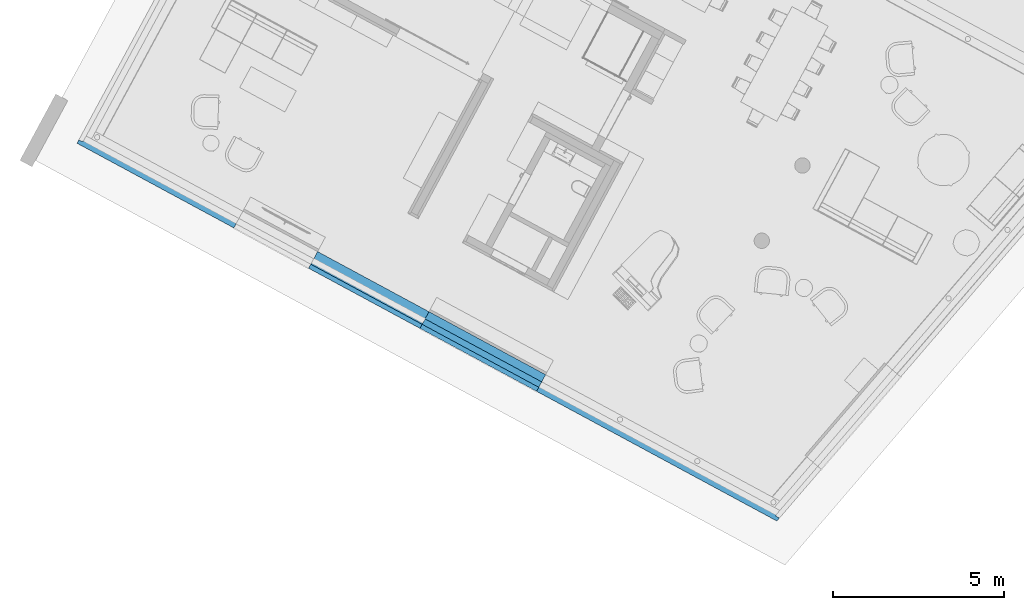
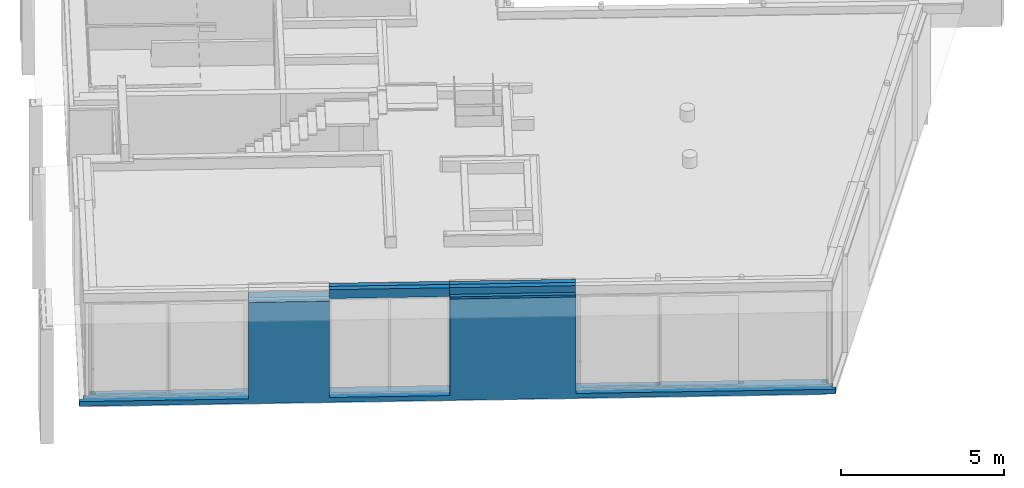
# One storey, part 3 of 52: 3 walls, 3 openings.
"""IFC2X3 building model written with IfcOpenShell, lengths in metres."""

from ifc_helpers import new_model, entity, si_unit, converted_unit, derived_unit, money_unit, direction, frame, origin_with_axes, origin_2d_with_axis, place, context, subcontext, project, spatial, rectangle, extrude, faceted_brep, material, material_list, type_object, element, save


model = new_model("IFC2X3")

# Units and contexts
model_context = context("Model", 3, precision=1e-05, world=origin_with_axes(), true_north=direction((0.0, 1.0)))
body_context = subcontext(model_context, "Body", "Model", "MODEL_VIEW")
ifc_project = project(units=[si_unit("LENGTHUNIT", "METRE"), si_unit("AREAUNIT", "SQUARE_METRE"), si_unit("VOLUMEUNIT", "CUBIC_METRE"), converted_unit("PLANEANGLEUNIT", "DEGREE", entity("IfcPlaneAngleMeasure", 0.0174532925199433), si_unit("PLANEANGLEUNIT", "RADIAN"), dimensions=[0, 0, 0, 0, 0, 0, 0]), money_unit("EUR"), converted_unit("TIMEUNIT", "Year", entity("IfcTimeMeasure", 31556926.0), si_unit("TIMEUNIT", "SECOND"), dimensions=[0, 0, 1, 0, 0, 0, 0]), si_unit("MASSUNIT", "GRAM", prefix="KILO"), si_unit("THERMODYNAMICTEMPERATUREUNIT", "DEGREE_CELSIUS"), si_unit("LUMINOUSINTENSITYUNIT", "LUMEN"), si_unit("ENERGYUNIT", "JOULE", prefix="MEGA"), derived_unit("THERMALCONDUCTANCEUNIT", [(si_unit("POWERUNIT", "WATT"), 1), (si_unit("LENGTHUNIT", "METRE"), -1), (si_unit("THERMODYNAMICTEMPERATUREUNIT", "KELVIN"), -1)]), derived_unit("SPECIFICHEATCAPACITYUNIT", [(si_unit("ENERGYUNIT", "JOULE"), 1), (si_unit("MASSUNIT", "GRAM", prefix="KILO"), -1), (si_unit("THERMODYNAMICTEMPERATUREUNIT", "KELVIN"), -1)]), derived_unit("MASSDENSITYUNIT", [(si_unit("MASSUNIT", "GRAM", prefix="KILO"), 1), (si_unit("VOLUMEUNIT", "CUBIC_METRE"), -1)])], contexts=[model_context])

# Site, building, storey
site_placement = place(None, frame((-3.949935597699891, 1.740105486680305, 0.0), z_axis=(0.0, 0.0, 1.0), x_axis=(0.8799804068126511, -0.475009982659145, 0.0)))
site = spatial("IfcSite", under=ifc_project, at=site_placement, Name="Gelände", CompositionType="ELEMENT")
building_placement = place(site_placement, origin_with_axes())
building = spatial("IfcBuilding", under=site, at=building_placement, Name="Gebäude", CompositionType="ELEMENT")
storey_placement = place(building_placement, origin_with_axes())
storey = spatial("IfcBuildingStorey", under=building, at=storey_placement, Name="Erdgeschoss", CompositionType="ELEMENT", Elevation=0.0)

# Wall, openings
ifc_material_1 = material(Name="_SIWH - Beton, Stahlbeton")
ifc_material_2 = material(Name="_SIWH - Dämmung, weich Mineralwolle")
ifc_material_3 = material(Name="_SIWH - Luftschicht vertikal")
ifc_material_4 = material(Name="_SIWH - MW Vormauerziegel")
ifc_material_list_1 = material_list([ifc_material_1, ifc_material_2, ifc_material_3, ifc_material_4])
wall_type_1 = type_object("IfcWallType", Name="_SIWH - WA | Stb. 24+WD 18+LS 2+Verblender 11,5 | 55,5cm 555", PredefinedType="NOTDEFINED")
wall_1_placement = place(storey_placement, frame((4.1825262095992, 0.2249963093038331, -0.18), z_axis=(0.0, 0.0, 1.0), x_axis=(0.9999999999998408, -5.644435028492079e-07, 0.0)))
wall_1 = element("IfcWall", 1, at=wall_1_placement, inside=storey, type_object=wall_type_1, material=ifc_material_list_1, Name="A-Wand040", context=body_context, shape_type="Brep", body=[
    faceted_brep([(0.2400000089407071, 0.2400000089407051, 0.1800000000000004), (4.894955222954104, 0.2400000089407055, 0.1800000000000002), (4.894955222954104, 0.2400000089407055, 3.799999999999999), (7.377462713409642, 0.2400000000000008, 3.799999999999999), (7.377462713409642, 0.2400000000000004, 0.1800000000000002), (11.07746271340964, 0.2400000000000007, 0.1800000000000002), (11.07746271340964, 0.2400000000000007, 3.799999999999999), (14.95233473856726, 0.2400000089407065, 3.799999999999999), (14.95233473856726, 0.240000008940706, 0.1800000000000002), (22.48610912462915, 0.2400000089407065, 0.1800000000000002), (22.60382003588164, 0.2400000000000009, 0.18), (22.73176667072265, 0.2400000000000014, 0.18), (22.73176667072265, 0.2400000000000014, 0.0), (0.0, 0.2399999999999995, 0.0), (0.0, 0.2399999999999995, 0.18), (0.1250000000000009, 0.2399999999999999, 0.18), (0.1813924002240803, 0.1646755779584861, 0.1800000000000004), (0.1921874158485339, 0.143489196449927, 0.1800000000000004), (0.1951158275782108, 0.1249999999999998, 0.1800000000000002), (4.894955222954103, 0.1249999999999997, 0.1800000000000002), (0.125, 0.1951972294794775, 0.18), (0.1433923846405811, 0.1922841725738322, 0.1799999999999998), (0.164578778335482, 0.1814891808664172, 0.1799999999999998), (4.894955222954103, 0.1250000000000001, 3.799999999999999), (4.894955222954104, -1.788140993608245e-08, 3.799999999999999), (7.377462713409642, 0.0, 3.799999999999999), (7.377462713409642, 0.0, 0.1800000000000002), (11.07746271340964, 0.0, 0.1800000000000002), (11.07746271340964, 0.0, 3.799999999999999), (14.95233473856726, 0.1250000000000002, 3.799999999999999), (14.95233473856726, -1.788140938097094e-08, 3.799999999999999), (14.95233473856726, 0.1249999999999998, 0.1800000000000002), (17.41379108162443, 0.125, 0.1800000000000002), (17.41672101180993, 0.1434989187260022, 0.1800000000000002), (17.42751600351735, 0.1646853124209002, 0.1800000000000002), (17.44432960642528, 0.1814989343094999, 0.1800000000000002), (17.46551598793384, 0.1922939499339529, 0.1800000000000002), (17.48900127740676, 0.196013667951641, 0.1800000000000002), (17.51248657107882, 0.1922939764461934, 0.1800000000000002), (17.53367296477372, 0.181498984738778, 0.1800000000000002), (17.55048658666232, 0.1646853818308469, 0.1800000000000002), (17.56128160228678, 0.1434990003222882, 0.1800000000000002), (17.56421156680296, 0.1249999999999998, 0.1800000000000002), (19.98045751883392, 0.1250000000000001, 0.1800000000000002), (19.98338767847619, 0.1435003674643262, 0.1800000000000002), (19.9941826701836, 0.1646867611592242, 0.1800000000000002), (20.01099627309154, 0.1815003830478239, 0.1800000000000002), (20.0321826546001, 0.1922953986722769, 0.1800000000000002), (20.05566794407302, 0.196015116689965, 0.1800000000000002), (20.07915323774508, 0.1922954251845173, 0.1800000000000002), (20.10033963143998, 0.181500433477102, 0.1800000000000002), (20.11715325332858, 0.1646868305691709, 0.1800000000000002), (20.12794826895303, 0.1435004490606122, 0.1800000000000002), (20.13087846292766, 0.1250000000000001, 0.1800000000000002), (22.50751728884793, 0.1250000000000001, 0.1800000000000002), (22.51044767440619, 0.1435017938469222, 0.1800000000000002), (22.52124266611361, 0.1646881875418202, 0.1800000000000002), (22.53805626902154, 0.1815018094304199, 0.1799999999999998), (22.55924265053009, 0.1922968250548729, 0.1799999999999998), (22.58272794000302, 0.196016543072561, 0.1799999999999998), (22.59382968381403, 0.1942582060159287, 0.18), (22.64421329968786, 0.07534489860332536, 0.18), (22.62739969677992, 0.05853127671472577, 0.1800000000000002), (22.60621331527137, 0.04773626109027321, 0.1800000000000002), (22.58272802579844, 0.04401654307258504, 0.1800000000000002), (22.55924273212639, 0.04773623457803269, 0.1800000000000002), (22.53805633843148, 0.05853122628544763, 0.1800000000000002), (22.52124271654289, 0.07534482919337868, 0.1800000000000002), (22.51044770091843, 0.0965312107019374, 0.1800000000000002), (22.50672798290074, 0.1200165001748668, 0.1800000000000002), (20.13166798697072, 0.1200151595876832, 0.1800000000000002), (20.12794829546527, 0.09652986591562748, 0.1800000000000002), (20.11715330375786, 0.07534347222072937, 0.1800000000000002), (20.10033970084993, 0.05852985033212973, 0.1800000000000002), (20.07915331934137, 0.04773483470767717, 0.1800000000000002), (20.05566802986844, 0.04401511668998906, 0.1800000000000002), (20.03218273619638, 0.04773480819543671, 0.1800000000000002), (20.01099634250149, 0.05852979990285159, 0.1800000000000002), (19.99418272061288, 0.07534340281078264, 0.1800000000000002), (19.98338770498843, 0.09652978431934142, 0.1800000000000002), (19.97966798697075, 0.1200150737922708, 0.1800000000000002), (17.56500132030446, 0.1200137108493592, 0.1800000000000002), (17.56128162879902, 0.09652841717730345, 0.1800000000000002), (17.5504866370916, 0.0753420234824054, 0.1800000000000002), (17.53367303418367, 0.05852840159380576, 0.1800000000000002), (17.51248665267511, 0.0477333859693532, 0.1800000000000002), (17.48900136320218, 0.04401366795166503, 0.1800000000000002), (17.46551606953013, 0.04773335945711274, 0.1800000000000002), (17.44432967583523, 0.05852835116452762, 0.1800000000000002), (17.42751605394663, 0.07534195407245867, 0.1800000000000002), (17.41672103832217, 0.0965283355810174, 0.1800000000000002), (17.41300132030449, 0.1200136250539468, 0.1800000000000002), (14.95233473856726, 0.0, 0.1800000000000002), (22.67934886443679, 0.0, 0.1800000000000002), (22.60621323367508, 0.1922968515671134, 0.18), (22.62739962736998, 0.1815018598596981, 0.18), (22.64421324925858, 0.1646882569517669, 0.18), (22.65500826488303, 0.1435018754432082, 0.18), (22.65872798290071, 0.1200165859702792, 0.18), (22.65500829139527, 0.09653129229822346, 0.18), (22.67934886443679, 0.0, 0.0), (0.0, 0.0, 0.0), (0.09642188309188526, 0.04772355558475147, 0.0), (0.1199071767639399, 0.04400386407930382, 0.0), (0.1433924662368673, 0.04772358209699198, 0.0), (0.1645788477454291, 0.05851859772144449, 0.0), (0.181392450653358, 0.07533221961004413, 0.0), (0.1921874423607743, 0.09651861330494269, 0.0), (0.1959071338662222, 0.120003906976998, 0.0), (0.1921874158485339, 0.143489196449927, 0.0), (0.1813924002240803, 0.1646755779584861, 0.0), (0.164578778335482, 0.1814891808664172, 0.0), (0.1433923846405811, 0.1922841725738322, 0.0), (0.1199070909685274, 0.1960038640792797, 0.0), (0.09642180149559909, 0.1922841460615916, 0.0), (0.0752354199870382, 0.1814891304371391, 0.0), (0.05842181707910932, 0.1646755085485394, 0.0), (0.04762682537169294, 0.1434891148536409, 0.0), (0.04390713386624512, 0.1200038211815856, 0.0), (0.04762685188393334, 0.09651853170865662, 0.0), (0.05842186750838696, 0.07533215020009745, 0.0), (0.07523548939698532, 0.05851854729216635, 0.0), (22.55924273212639, 0.04773623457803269, 0.0), (22.58272802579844, 0.04401654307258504, 0.0), (22.60621331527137, 0.04773626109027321, 0.0), (22.62739969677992, 0.05853127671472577, 0.0), (22.64421329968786, 0.07534489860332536, 0.0), (22.65500829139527, 0.09653129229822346, 0.0), (22.65872798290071, 0.1200165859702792, 0.0), (22.65500826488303, 0.1435018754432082, 0.0), (22.64421324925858, 0.1646882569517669, 0.0), (22.62739962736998, 0.1815018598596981, 0.0), (22.60621323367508, 0.1922968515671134, 0.0), (22.58272794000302, 0.196016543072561, 0.0), (22.55924265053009, 0.1922968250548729, 0.0), (22.53805626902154, 0.1815018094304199, 0.0), (22.52124266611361, 0.1646881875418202, 0.0), (22.51044767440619, 0.1435017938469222, 0.0), (22.50672798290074, 0.1200165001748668, 0.0), (22.51044770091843, 0.0965312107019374, 0.0), (22.52124271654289, 0.07534482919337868, 0.0), (22.53805633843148, 0.05853122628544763, 0.0), (20.03218273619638, 0.04773480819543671, 0.0), (20.05566802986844, 0.04401511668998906, 0.0), (20.07915331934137, 0.04773483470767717, 0.0), (20.10033970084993, 0.05852985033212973, 0.0), (20.11715330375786, 0.07534347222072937, 0.0), (20.12794829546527, 0.09652986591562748, 0.0), (20.13166798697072, 0.1200151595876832, 0.0), (20.12794826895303, 0.1435004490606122, 0.0), (20.11715325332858, 0.1646868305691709, 0.0), (20.10033963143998, 0.181500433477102, 0.0), (20.07915323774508, 0.1922954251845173, 0.0), (20.05566794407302, 0.196015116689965, 0.0), (20.0321826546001, 0.1922953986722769, 0.0), (20.01099627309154, 0.1815003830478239, 0.0), (19.9941826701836, 0.1646867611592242, 0.0), (19.98338767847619, 0.1435003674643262, 0.0), (19.97966798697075, 0.1200150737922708, 0.0), (19.98338770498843, 0.09652978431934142, 0.0), (19.99418272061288, 0.07534340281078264, 0.0), (20.01099634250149, 0.05852979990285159, 0.0), (0.0, 0.0, 0.1800000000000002), (4.894955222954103, 0.0, 0.1800000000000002), (0.1959071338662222, 0.120003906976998, 0.1800000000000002), (0.1921874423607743, 0.09651861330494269, 0.1800000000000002), (0.181392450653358, 0.07533221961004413, 0.1800000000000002), (0.1645788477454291, 0.05851859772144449, 0.1800000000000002), (0.1433924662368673, 0.04772358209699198, 0.1800000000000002), (0.1199071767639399, 0.04400386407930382, 0.1800000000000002), (0.09642188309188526, 0.04772355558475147, 0.1800000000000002), (0.07523548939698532, 0.05851854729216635, 0.1800000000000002), (0.05842186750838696, 0.07533215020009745, 0.18), (0.04762685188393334, 0.09651853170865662, 0.18), (0.04390713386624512, 0.1200038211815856, 0.18), (0.04762682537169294, 0.1434891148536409, 0.18), (0.05842181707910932, 0.1646755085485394, 0.18), (0.0752354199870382, 0.1814891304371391, 0.18), (0.09642180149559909, 0.1922841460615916, 0.18), (0.1199070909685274, 0.1960038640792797, 0.18), (17.41300132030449, 0.1200136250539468, 0.03000000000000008), (17.41672101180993, 0.1434989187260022, 0.03000000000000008), (17.42751600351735, 0.1646853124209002, 0.03000000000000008), (17.44432960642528, 0.1814989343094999, 0.03000000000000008), (17.46551598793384, 0.1922939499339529, 0.03000000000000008), (17.48900127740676, 0.196013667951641, 0.03000000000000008), (17.51248657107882, 0.1922939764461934, 0.03000000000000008), (17.53367296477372, 0.181498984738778, 0.03000000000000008), (17.55048658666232, 0.1646853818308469, 0.03000000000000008), (17.56128160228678, 0.1434990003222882, 0.03000000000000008), (17.56500132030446, 0.1200137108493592, 0.03000000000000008), (17.56128162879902, 0.09652841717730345, 0.03000000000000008), (17.5504866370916, 0.0753420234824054, 0.03000000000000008), (17.53367303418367, 0.05852840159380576, 0.03000000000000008), (17.51248665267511, 0.0477333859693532, 0.03000000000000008), (17.48900136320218, 0.04401366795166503, 0.03000000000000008), (17.46551606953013, 0.04773335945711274, 0.03000000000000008), (17.44432967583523, 0.05852835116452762, 0.03000000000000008), (17.42751605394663, 0.07534195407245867, 0.03000000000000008), (17.41672103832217, 0.0965283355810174, 0.03000000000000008)], [[[0, 1, 2, 3, 4, 5, 6, 7, 8, 9, 10, 11, 12, 13, 14, 15]], [[16, 17, 18, 19, 1, 0, 15, 20, 21, 22]], [[23, 2, 1, 19]], [[23, 24, 25, 3, 2]], [[26, 4, 3, 25]], [[27, 5, 4, 26]], [[27, 28, 6, 5]], [[29, 7, 6, 28, 30]], [[8, 7, 29, 31]], [[9, 8, 31, 32, 33, 34, 35, 36, 37, 38, 39, 40, 41, 42, 43, 44, 45, 46, 47, 48, 49, 50, 51, 52, 53, 54, 55, 56, 57, 58, 59, 60, 10]], [[61, 62, 63, 64, 65, 66, 67, 68, 69, 54, 53, 70, 71, 72, 73, 74, 75, 76, 77, 78, 79, 80, 43, 42, 81, 82, 83, 84, 85, 86, 87, 88, 89, 90, 91, 32, 31, 92, 93, 11, 10, 60, 94, 95, 96, 97, 98, 99]], [[11, 93, 100, 12]], [[13, 12, 100, 101], [102, 103, 104, 105, 106, 107, 108, 109, 110, 111, 112, 113, 114, 115, 116, 117, 118, 119, 120, 121], [122, 123, 124, 125, 126, 127, 128, 129, 130, 131, 132, 133, 134, 135, 136, 137, 138, 139, 140, 141], [142, 143, 144, 145, 146, 147, 148, 149, 150, 151, 152, 153, 154, 155, 156, 157, 158, 159, 160, 161]], [[162, 14, 13, 101]], [[162, 163, 19, 18, 164, 165, 166, 167, 168, 169, 170, 171, 172, 173, 174, 175, 176, 177, 178, 179, 20, 15, 14]], [[17, 16, 110, 109]], [[18, 17, 109, 108, 164]], [[20, 179, 113, 112, 21]], [[22, 21, 112, 111]], [[16, 22, 111, 110]], [[24, 23, 19, 163]], [[163, 162, 101, 100, 93, 92, 30, 28, 27, 26, 25, 24]], [[29, 30, 92, 31]], [[32, 91, 180, 181, 33]], [[34, 33, 181, 182]], [[35, 34, 182, 183]], [[36, 35, 183, 184]], [[37, 36, 184, 185]], [[38, 37, 185, 186]], [[39, 38, 186, 187]], [[40, 39, 187, 188]], [[41, 40, 188, 189]], [[42, 41, 189, 190, 81]], [[43, 80, 158, 157, 44]], [[45, 44, 157, 156]], [[46, 45, 156, 155]], [[47, 46, 155, 154]], [[48, 47, 154, 153]], [[49, 48, 153, 152]], [[50, 49, 152, 151]], [[51, 50, 151, 150]], [[52, 51, 150, 149]], [[53, 52, 149, 148, 70]], [[54, 69, 138, 137, 55]], [[56, 55, 137, 136]], [[56, 136, 135, 57]], [[58, 57, 135, 134]], [[59, 58, 134, 133]], [[60, 59, 133, 132, 94]], [[62, 61, 126, 125]], [[63, 62, 125, 124]], [[64, 63, 124, 123]], [[65, 64, 123, 122]], [[66, 65, 122, 141]], [[67, 66, 141, 140]], [[68, 67, 140, 139]], [[69, 68, 139, 138]], [[71, 70, 148, 147]], [[72, 71, 147, 146]], [[73, 72, 146, 145]], [[74, 73, 145, 144]], [[75, 74, 144, 143]], [[76, 75, 143, 142]], [[77, 76, 142, 161]], [[78, 77, 161, 160]], [[79, 78, 160, 159]], [[80, 79, 159, 158]], [[82, 81, 190, 191]], [[83, 82, 191, 192]], [[84, 83, 192, 193]], [[85, 84, 193, 194]], [[86, 85, 194, 195]], [[87, 86, 195, 196]], [[88, 87, 196, 197]], [[89, 88, 197, 198]], [[90, 89, 198, 199]], [[91, 90, 199, 180]], [[95, 94, 132, 131]], [[96, 95, 131, 130]], [[97, 96, 130, 129]], [[98, 97, 129, 128]], [[99, 98, 128, 127]], [[61, 99, 127, 126]], [[170, 169, 103, 102]], [[169, 168, 104, 103]], [[168, 167, 105, 104]], [[167, 166, 106, 105]], [[166, 165, 107, 106]], [[165, 164, 108, 107]], [[179, 178, 114, 113]], [[178, 177, 115, 114]], [[177, 176, 116, 115]], [[176, 175, 117, 116]], [[175, 174, 118, 117]], [[174, 173, 119, 118]], [[173, 172, 120, 119]], [[171, 121, 120, 172]], [[171, 170, 102, 121]], [[184, 183, 182, 181, 180, 199, 198, 197, 196, 195, 194, 193, 192, 191, 190, 189, 188, 187, 186, 185]]]),
    faceted_brep([(4.894955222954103, 0.0, 0.1800000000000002), (4.894955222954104, -1.788140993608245e-08, 3.799999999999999), (7.377462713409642, 0.0, 3.799999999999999), (7.377462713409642, 0.0, 0.1800000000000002), (11.07746271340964, 0.0, 0.1800000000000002), (11.07746271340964, 0.0, 3.799999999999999), (14.95233473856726, -1.788140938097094e-08, 3.799999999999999), (14.95233473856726, 0.0, 0.1800000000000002), (22.86359201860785, 0.0, 0.18), (22.86359201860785, 0.0, 0.0), (-0.1800000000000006, 0.0, 0.0), (-0.1800000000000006, 0.0, 0.18), (4.894955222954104, -0.1800000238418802, 3.799999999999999), (4.894955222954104, -0.1799999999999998, 0.1800000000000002), (7.377462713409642, -0.179999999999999, 3.799999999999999), (7.377462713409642, -0.1799999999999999, 0.1800000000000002), (11.07746271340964, -0.1799999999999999, 0.1800000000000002), (11.07746271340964, -0.179999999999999, 3.799999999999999), (14.95233473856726, -0.1800000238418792, 3.799999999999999), (14.95233473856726, -0.1799999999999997, 0.1800000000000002), (22.82427866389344, -0.1800000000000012, 0.1800000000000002), (22.82427866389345, -0.1799999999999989, 0.0), (-0.1799999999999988, -0.1799999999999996, 0.0), (-0.1799999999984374, -0.1799999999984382, 0.1800000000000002)], [[[0, 1, 2, 3, 4, 5, 6, 7, 8, 9, 10, 11]], [[12, 1, 0, 13]], [[1, 12, 14, 2]], [[15, 3, 2, 14]], [[16, 4, 3, 15]], [[16, 17, 5, 4]], [[18, 6, 5, 17]], [[7, 6, 18, 19]], [[8, 7, 19, 20]], [[8, 20, 21, 9]], [[9, 21, 22, 10]], [[23, 11, 10, 22]], [[23, 13, 0, 11]], [[13, 23, 22, 21, 20, 19, 18, 17, 16, 15, 14, 12]]]),
    faceted_brep([(4.894955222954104, -0.1799999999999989, 0.1800000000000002), (4.894955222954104, -0.1800000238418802, 3.799999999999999), (7.377462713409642, -0.179999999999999, 3.799999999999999), (7.377462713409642, -0.179999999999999, 0.1800000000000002), (11.07746271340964, -0.179999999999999, 0.1800000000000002), (11.07746271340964, -0.179999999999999, 3.799999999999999), (14.95233473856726, -0.1800000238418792, 3.799999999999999), (14.95233473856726, -0.1799999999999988, 0.1800000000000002), (22.844750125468, -0.1799999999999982, 0.18), (22.844750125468, -0.1799999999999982, 0.0), (-0.2000000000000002, -0.1800000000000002, 0.0), (-0.2000000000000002, -0.1800000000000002, 0.18), (4.894955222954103, -0.2000000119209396, 3.799999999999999), (4.894955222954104, -0.1999999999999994, 0.1800000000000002), (7.377462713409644, -0.199999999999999, 3.799999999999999), (7.377462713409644, -0.199999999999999, 0.1800000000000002), (11.07746271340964, -0.1999999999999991, 0.1800000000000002), (11.07746271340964, -0.1999999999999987, 3.799999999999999), (14.95233473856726, -0.2000000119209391, 3.799999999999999), (14.95233473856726, -0.1999999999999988, 0.1800000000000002), (22.84038197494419, -0.199999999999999, 0.1800000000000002), (22.84038197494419, -0.199999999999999, 0.0), (-0.1999999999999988, -0.2000000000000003, 0.0), (-0.1999999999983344, -0.1999999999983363, 0.1800000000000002)], [[[0, 1, 2, 3, 4, 5, 6, 7, 8, 9, 10, 11]], [[12, 1, 0, 13]], [[1, 12, 14, 2]], [[15, 3, 2, 14]], [[16, 4, 3, 15]], [[16, 17, 5, 4]], [[18, 6, 5, 17]], [[7, 6, 18, 19]], [[8, 7, 19, 20]], [[8, 20, 21, 9]], [[9, 21, 22, 10]], [[23, 11, 10, 22]], [[23, 13, 0, 11]], [[13, 23, 22, 21, 20, 19, 18, 17, 16, 15, 14, 12]]]),
    faceted_brep([(4.894955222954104, -0.1999999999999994, 0.1800000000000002), (4.894955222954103, -0.2000000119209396, 3.799999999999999), (7.377462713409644, -0.199999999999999, 3.799999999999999), (7.377462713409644, -0.199999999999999, 0.1800000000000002), (11.07746271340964, -0.1999999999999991, 0.1800000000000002), (11.07746271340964, -0.1999999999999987, 3.799999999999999), (14.95233473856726, -0.2000000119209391, 3.799999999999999), (14.95233473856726, -0.1999999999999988, 0.1800000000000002), (22.95809287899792, -0.1999999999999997, 0.18), (22.95809287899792, -0.1999999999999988, 0.0), (-0.3149999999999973, -0.2000000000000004, 0.0), (-0.3149999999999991, -0.2000000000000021, 0.18), (4.894955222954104, -0.3149999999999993, 3.799999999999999), (4.894955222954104, -0.3149999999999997, 0.1800000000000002), (7.377462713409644, -0.3149999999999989, 3.799999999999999), (7.377462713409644, -0.2449999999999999, 3.799999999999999), (7.377462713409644, -0.2449999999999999, 0.1800000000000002), (11.07746271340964, -0.245, 0.1800000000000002), (11.07746271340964, -0.245, 3.799999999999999), (11.07746271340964, -0.314999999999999, 3.799999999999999), (14.95233473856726, -0.3149999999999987, 3.799999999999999), (14.95233473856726, -0.3149999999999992, 0.1800000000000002), (22.93297601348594, -0.3149999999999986, 0.1800000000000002), (22.93297601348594, -0.3149999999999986, 0.0), (-0.3149999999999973, -0.3150000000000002, 0.0), (-0.3149999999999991, -0.3150000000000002, 0.1800000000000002), (11.07746271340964, -0.314999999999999, 0.1800000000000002), (7.377462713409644, -0.3149999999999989, 0.1800000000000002)], [[[0, 1, 2, 3, 4, 5, 6, 7, 8, 9, 10, 11]], [[12, 1, 0, 13]], [[1, 12, 14, 15, 2]], [[15, 16, 3, 2]], [[16, 17, 4, 3]], [[4, 17, 18, 5]], [[19, 20, 6, 5, 18]], [[21, 7, 6, 20]], [[22, 8, 7, 21]], [[23, 9, 8, 22]], [[9, 23, 24, 10]], [[11, 10, 24, 25]], [[25, 13, 0, 11]], [[13, 25, 24, 23, 22, 21, 20, 19, 26, 27, 14, 12]], [[14, 27, 16, 15]], [[27, 26, 17, 16]], [[26, 19, 18, 17]]]),
])
opening_1_placement = place(wall_1_placement, frame((18.73616060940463, 0.0, 0.1800000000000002), z_axis=(0.0, 0.0, 1.0), x_axis=(1.0, 0.0, 0.0)))
element("IfcOpeningElement", 2, at=opening_1_placement, cuts=wall_1, Name="Fenster-003", context=body_context, shape_type="Brep", body=[
    faceted_brep([(4.196815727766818, -0.315000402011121, 3.619999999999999), (4.196815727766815, -0.3160128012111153, 3.619999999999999), (4.196815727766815, -0.3160128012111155, 0.0), (4.196815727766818, -0.3150004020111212, 0.0), (3.842542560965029, 0.1250000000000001, 3.619999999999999), (-3.783825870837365, 0.1250000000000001, 3.619999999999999), (-3.783825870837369, -0.3160128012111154, 3.619999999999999), (-3.783825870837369, -0.3160128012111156, 0.0), (-3.783825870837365, 0.1249999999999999, 0.0), (3.842542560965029, 0.1249999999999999, 0.0), (3.749133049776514, 0.2410128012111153, 0.0), (3.749133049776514, 0.2410128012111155, 3.619999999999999), (-3.783825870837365, 0.2410128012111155, 3.619999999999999), (-3.783825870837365, 0.2410128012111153, 0.0)], [[[0, 1, 2, 3]], [[4, 5, 6, 1, 0]], [[6, 7, 2, 1]], [[8, 9, 3, 2, 7]], [[0, 3, 9, 10, 11, 4]], [[5, 4, 11, 12]], [[5, 8, 7, 6]], [[9, 8, 13, 10]], [[10, 13, 12, 11]], [[8, 5, 12, 13]]]),
])
opening_2_placement = place(wall_1_placement, frame((2.544955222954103, 0.0, 0.1800000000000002), z_axis=(0.0, 0.0, 1.0), x_axis=(1.0, 0.0, 0.0)))
element("IfcOpeningElement", 3, at=opening_2_placement, cuts=wall_1, Name="Fenster-014", context=body_context, shape_type="Brep", body=[
    faceted_brep([(2.349999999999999, 0.1249999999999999, 0.0), (2.349999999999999, 0.1250000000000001, 3.619999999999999), (2.350000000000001, -0.3160128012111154, 3.619999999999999), (2.350000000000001, -0.3160128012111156, 0.0), (2.349999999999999, 0.2410128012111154, 0.0), (2.349999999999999, 0.2410128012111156, 3.619999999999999), (-2.419955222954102, 0.1250000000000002, 3.619999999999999), (-2.859999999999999, -0.3150447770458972, 3.619999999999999), (-2.859999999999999, -0.3160128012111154, 3.619999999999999), (-2.859999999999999, -0.3160128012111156, 0.0), (-2.419955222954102, 0.125, 0.0), (-2.859999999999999, -0.3150447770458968, 0.0), (-2.303942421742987, 0.2410128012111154, 0.0), (-2.303942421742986, 0.2410128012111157, 3.619999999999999)], [[[0, 1, 2, 3]], [[1, 0, 4, 5]], [[1, 6, 7, 8, 2]], [[8, 9, 3, 2]], [[10, 0, 3, 9, 11]], [[0, 10, 12, 4]], [[5, 4, 12, 13]], [[6, 1, 5, 13]], [[7, 6, 13, 12, 10, 11]], [[11, 9, 8, 7]]]),
])
opening_3_placement = place(wall_1_placement, frame((9.227462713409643, 0.0, 0.1800000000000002), z_axis=(0.0, 0.0, 1.0), x_axis=(1.0, 0.0, 0.0)))
element("IfcOpeningElement", 4, at=opening_3_placement, cuts=wall_1, Name="Fenster-003", context=body_context, shape_type="SweptSolid", body=[
    extrude(rectangle(XDim=3.699999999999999, YDim=3.619999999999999, at=origin_2d_with_axis()), frame((0.0, -0.2449999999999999, 1.81), z_axis=(0.0, 1.0, 0.0), x_axis=(-1.0, 0.0, 0.0)), (0.0, 0.0, 1.0), 1.04),
    extrude(rectangle(XDim=3.699999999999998, YDim=3.619999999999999, at=origin_2d_with_axis()), frame((0.0, -0.2449999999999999, 1.81), z_axis=(0.0, -1.0, 0.0), x_axis=(-1.0, 0.0, 0.0)), (0.0, 0.0, 1.0), 0.625),
])

# Walls
ifc_material_list_2 = material_list([ifc_material_1, ifc_material_2])
wall_type_2 = type_object("IfcWallType", Name="_SIWH - WA | Stb. 24+WD 18 | 42cm 420", PredefinedType="NOTDEFINED")
wall_2_placement = place(storey_placement, frame((11.559988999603, 0.2249835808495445, 3.619999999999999), z_axis=(0.0, 0.0, 1.0), x_axis=(0.9999999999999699, -2.452875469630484e-07, 0.0)))
element("IfcWall", 5, at=wall_2_placement, inside=storey, type_object=wall_type_2, material=ifc_material_list_2, Name="A-Wand008", context=body_context, shape_type="Brep", body=[
    faceted_brep([(0.0, 0.2400000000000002, 0.2800000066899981), (3.699999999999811, 0.2400000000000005, 0.2800000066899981), (3.699999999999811, 0.2400000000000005, 0.0), (0.0, 0.2400000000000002, 0.0), (3.699999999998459, 5.514202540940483e-06, 0.2800000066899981), (0.0, 4.60663861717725e-06, 0.2800000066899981), (3.699999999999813, 0.0, 0.0), (0.0, 0.0, 0.0)], [[[0, 1, 2, 3]], [[4, 1, 0, 5]], [[1, 4, 6, 2]], [[3, 2, 6, 7]], [[5, 0, 3, 7]], [[4, 5, 7, 6]]]),
    faceted_brep([(0.0, 0.0, 0.0), (3.699999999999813, 0.0, 0.0), (3.699999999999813, -0.1799999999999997, 0.0), (0.0, -0.1799999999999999, 0.0), (0.0, 0.0, 0.330000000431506), (3.699999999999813, 0.0, 0.330000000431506), (3.699999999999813, -0.1799999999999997, 0.330000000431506), (0.0, -0.1799999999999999, 0.330000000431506)], [[[0, 1, 2, 3]], [[4, 5, 1, 0]], [[2, 1, 5, 6]], [[3, 2, 6, 7]], [[4, 0, 3, 7]], [[7, 6, 5, 4]]]),
])
wall_type_3 = type_object("IfcWallType", Name="_SIWH - Sturz Außenwand EG 555 x 330", PredefinedType="NOTDEFINED")
wall_3_placement = place(storey_placement, frame((15.25998882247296, 0.2249900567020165, 3.620000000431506), z_axis=(0.0, 0.0, 1.0), x_axis=(0.9999999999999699, -2.452875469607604e-07, 0.0)))
element("IfcWall", 6, at=wall_3_placement, inside=storey, type_object=wall_type_3, material=ifc_material_list_1, Name="A-Wand010", context=body_context, shape_type="Brep", body=[
    faceted_brep([(0.0, 0.2400000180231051, 0.2800000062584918), (3.874872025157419, 0.2400000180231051, 0.2800000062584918), (3.874872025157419, 0.2400000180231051, 0.0), (0.0, 0.2400000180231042, 0.0), (3.874872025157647, -9.187560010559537e-07, 0.2800000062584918), (0.0, -1.869213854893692e-06, 0.2800000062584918), (3.874872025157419, 0.0, 0.0), (0.0, 0.0, 0.0)], [[[0, 1, 2, 3]], [[4, 1, 0, 5]], [[1, 4, 6, 2]], [[3, 2, 6, 7]], [[5, 0, 3, 7]], [[4, 5, 7, 6]]]),
    faceted_brep([(0.0, -0.1799999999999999, 0.3300000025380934), (3.874872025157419, -0.1799999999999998, 0.3300000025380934), (3.874872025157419, -3.224469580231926e-10, 0.3300000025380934), (0.0, -3.224470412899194e-10, 0.3300000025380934), (0.0, -0.1800000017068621, 0.08000000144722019), (3.874872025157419, -0.1800000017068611, 0.08000000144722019), (3.874872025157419, -0.1799999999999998, 0.0), (3.874872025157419, -3.224469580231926e-10, 0.0), (0.0, -3.224470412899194e-10, 0.0), (0.0, -0.1799999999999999, 0.0)], [[[0, 1, 2, 3]], [[4, 5, 1, 0]], [[2, 1, 5, 6, 7]], [[3, 2, 7, 8]], [[4, 0, 3, 8, 9]], [[9, 6, 5, 4]], [[8, 7, 6, 9]]]),
    faceted_brep([(3.874872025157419, -0.1800000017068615, 0.0), (3.874872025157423, -0.2000000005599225, 0.0), (0.0, -0.2000000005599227, 0.0), (0.0, -0.1800000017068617, 0.0), (3.874872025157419, -0.1800000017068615, 0.08000000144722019), (3.874872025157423, -0.2000000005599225, 0.07999999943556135), (0.0, -0.2000000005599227, 0.07999999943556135), (0.0, -0.1800000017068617, 0.08000000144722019)], [[[0, 1, 2, 3]], [[0, 4, 5, 1]], [[1, 5, 6, 2]], [[3, 2, 6, 7]], [[4, 0, 3, 7]], [[5, 4, 7, 6]]]),
    faceted_brep([(3.874872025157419, -0.1999999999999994, 0.08000000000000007), (3.874872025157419, -0.1999999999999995, 0.0), (0.0, -0.1999999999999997, 0.0), (0.0, -0.1999999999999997, 0.08000000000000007), (3.874872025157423, -0.3149999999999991, 0.08000000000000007), (3.874872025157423, -0.3149999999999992, 0.0), (0.0, -0.3149999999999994, 0.0), (0.0, -0.3149999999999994, 0.08000000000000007)], [[[0, 1, 2, 3]], [[0, 4, 5, 1]], [[1, 5, 6, 2]], [[3, 2, 6, 7]], [[4, 0, 3, 7]], [[5, 4, 7, 6]]]),
])

save(model, "model.ifc")
